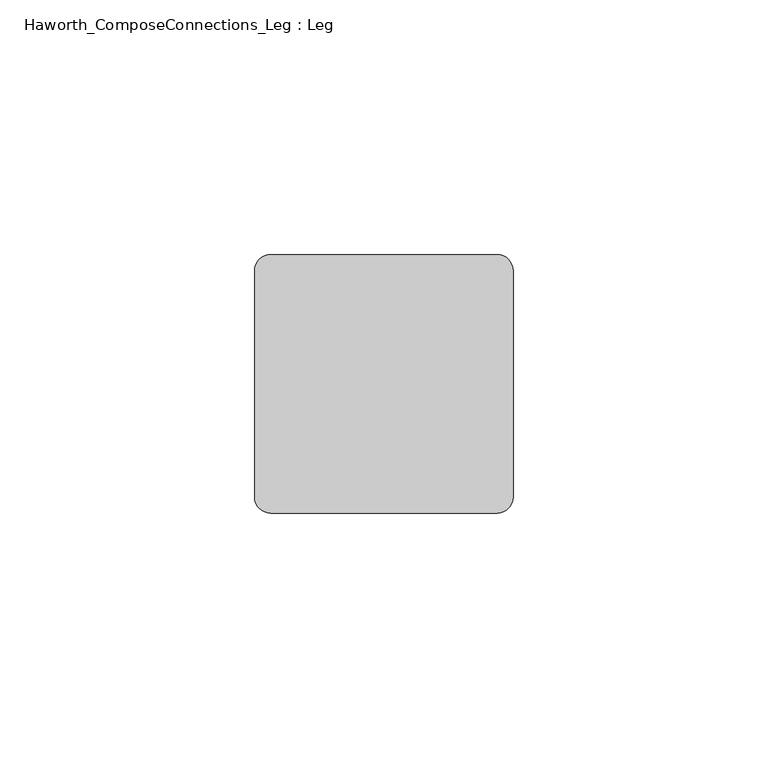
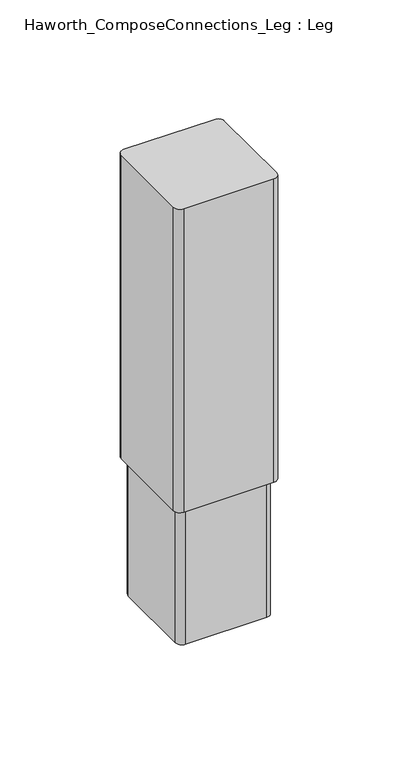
"""IFC4 building model written with IfcOpenShell, lengths in millimetres: furniture geometry, Haworth_ComposeConnections_Leg : Leg."""

import ifcopenshell
import ifcopenshell.guid

model = None  # the IFC model being written
_history = None  # IfcOwnerHistory: only IFC2X3 demands one
_inside = {}  # id of a spatial element -> (the spatial element, [elements in it])
_under = {}  # id of a project, library or spatial element -> (it, [spatial elements below it])
_declared = {}  # id of a project -> (the project, [libraries it declares])
_typed = {}  # id of a type object -> (the type object, [elements of that type])
_made_of = {}  # id of a material, layer set ... -> (it, [elements and type objects made of it])


def new_model(schema):
    """Start an empty IFC model of exactly this schema.

    Asked for "IFC4X3", IfcOpenShell would pick the latest addendum, in which some entities
    have other attributes; the version numbers below select the first issue.
    IFC2X3 requires an IfcOwnerHistory on every rooted entity: one is made here for all.
    """
    global model, _history
    if schema == "IFC4X3":
        model = ifcopenshell.file(schema_version=(4, 3, 0, 0))
    else:
        model = ifcopenshell.file(schema=schema)
    _inside.clear()
    _under.clear()
    _declared.clear()
    _typed.clear()
    _made_of.clear()
    _history = None
    if model.schema == "IFC2X3":
        org = make("IfcOrganization", Name="unknown")
        user = make(
            "IfcPersonAndOrganization",
            ThePerson=make("IfcPerson", FamilyName="unknown"),
            TheOrganization=org,
        )
        app = make(
            "IfcApplication",
            ApplicationDeveloper=org,
            Version="unknown",
            ApplicationFullName="unknown",
            ApplicationIdentifier="unknown",
        )
        _history = make(
            "IfcOwnerHistory",
            OwningUser=user,
            OwningApplication=app,
            ChangeAction="ADDED",
            CreationDate=0,
        )
    return model


def make(cls, **values):
    """One entity of the class cls with the attributes given. An attribute that is None is left unset."""
    return model.create_entity(
        cls, **{name: value for name, value in values.items() if value is not None}
    )


def rooted(cls, **values):
    """An entity with a GlobalId (a new one), such as an element, a storey or a relation."""
    return make(cls, GlobalId=ifcopenshell.guid.new(), OwnerHistory=_history, **values)


def si_unit(unit_type, name, prefix=None):
    """IfcSIUnit, for example si_unit("LENGTHUNIT", "METRE", prefix="MILLI")."""
    return make("IfcSIUnit", UnitType=unit_type, Prefix=prefix, Name=name)


def assignment(units):
    """IfcUnitAssignment: the units of a project."""
    return None if units is None else make("IfcUnitAssignment", Units=units)


def point(xyz):
    """IfcCartesianPoint."""
    return None if xyz is None else make("IfcCartesianPoint", Coordinates=xyz)


def direction(xyz):
    """IfcDirection."""
    return None if xyz is None else make("IfcDirection", DirectionRatios=xyz)


def frame(location, z_axis=None, x_axis=None):
    """IfcAxis2Placement3D, a coordinate frame: its origin and axes. An axis left out is left unset."""
    return make(
        "IfcAxis2Placement3D",
        Location=point(location),
        Axis=direction(z_axis),
        RefDirection=direction(x_axis),
    )


def frame_2d(location, x_axis=None):
    """IfcAxis2Placement2D, a coordinate frame in the plane: its origin and x axis."""
    return make(
        "IfcAxis2Placement2D", Location=point(location), RefDirection=direction(x_axis)
    )


def origin():
    """The frame at (0, 0, 0) with its axes left unset."""
    return frame((0.0, 0.0, 0.0))


def place(relative_to, where):
    """IfcLocalPlacement: puts the frame where relative to a parent placement (None: the world)."""
    return make(
        "IfcLocalPlacement", PlacementRelTo=relative_to, RelativePlacement=where
    )


def context(
    kind, dimensions, precision=None, world=None, true_north=None, identifier=None
):
    """IfcGeometricRepresentationContext, for example the 3D "Model" context."""
    return make(
        "IfcGeometricRepresentationContext",
        ContextIdentifier=identifier,
        ContextType=kind,
        CoordinateSpaceDimension=dimensions,
        Precision=precision,
        WorldCoordinateSystem=world,
        TrueNorth=true_north,
    )


def project(units=None, contexts=None):
    """IfcProject with its units and contexts."""
    return rooted(
        "IfcProject",
        Name="project",
        RepresentationContexts=contexts,
        UnitsInContext=assignment(units),
    )


def spatial(cls, under=None, at=None, **own):
    """A site, building, storey or space (cls), placed at a placement, below another one or the project."""
    s = rooted(cls, ObjectPlacement=at, **own)
    if under is not None:
        _under.setdefault(under.id(), (under, []))[1].append(s)
    return s


def polyline(points):
    """IfcPolyline through the points."""
    return make("IfcPolyline", Points=[point(p) for p in points])


def circle_curve(where, radius):
    """IfcCircle in the frame where."""
    return make("IfcCircle", Position=where, Radius=radius)


def trimmed(basis, trim1, trim2, sense, master):
    """IfcTrimmedCurve: the piece of a basis curve between two trims."""
    return make(
        "IfcTrimmedCurve",
        BasisCurve=basis,
        Trim1=trim1,
        Trim2=trim2,
        SenseAgreement=sense,
        MasterRepresentation=master,
    )


def segment(curve, same_sense, transition):
    """IfcCompositeCurveSegment."""
    return make(
        "IfcCompositeCurveSegment",
        Transition=transition,
        SameSense=same_sense,
        ParentCurve=curve,
    )


def composite_curve(segments, self_intersect=None):
    """IfcCompositeCurve: segments joined end to end."""
    return make("IfcCompositeCurve", Segments=segments, SelfIntersect=self_intersect)


def outline(outer, holes=None, kind="AREA"):
    """IfcArbitraryClosedProfileDef: a profile drawn as a closed curve; with holes, ...WithVoids."""
    if holes is None:
        return make("IfcArbitraryClosedProfileDef", ProfileType=kind, OuterCurve=outer)
    return make(
        "IfcArbitraryProfileDefWithVoids",
        ProfileType=kind,
        OuterCurve=outer,
        InnerCurves=holes,
    )


def extrude(swept, where, along, depth):
    """IfcExtrudedAreaSolid: the profile swept, set in the frame where, extruded along a direction by depth."""
    return make(
        "IfcExtrudedAreaSolid",
        SweptArea=swept,
        Position=where,
        ExtrudedDirection=direction(along),
        Depth=depth,
    )


def shape(context_of_items, identifier, shape_type, items):
    """IfcShapeRepresentation: the items that make up one representation, for example the "Body"."""
    return make(
        "IfcShapeRepresentation",
        ContextOfItems=context_of_items,
        RepresentationIdentifier=identifier,
        RepresentationType=shape_type,
        Items=items,
    )


def source(mapping_origin, context_of_items, identifier, shape_type, items):
    """IfcRepresentationMap: a shape defined once, which mapped items show again and again."""
    return make(
        "IfcRepresentationMap",
        MappingOrigin=mapping_origin,
        MappedRepresentation=shape(context_of_items, identifier, shape_type, items),
    )


def transform(
    local_origin,
    x_axis=None,
    y_axis=None,
    z_axis=None,
    scale=None,
    scale2=None,
    scale3=None,
    uniform=True,
):
    """IfcCartesianTransformationOperator3D, or its non-uniform kind. x_axis, y_axis, z_axis: its Axis1, 2, 3."""
    if uniform:
        return make(
            "IfcCartesianTransformationOperator3D",
            Axis1=direction(x_axis),
            Axis2=direction(y_axis),
            LocalOrigin=point(local_origin),
            Scale=scale,
            Axis3=direction(z_axis),
        )
    return make(
        "IfcCartesianTransformationOperator3DnonUniform",
        Axis1=direction(x_axis),
        Axis2=direction(y_axis),
        LocalOrigin=point(local_origin),
        Scale=scale,
        Axis3=direction(z_axis),
        Scale2=scale2,
        Scale3=scale3,
    )


def mapped(mapping_source, mapping_target):
    """IfcMappedItem: shows the shape of a source again, moved by a transform."""
    return make(
        "IfcMappedItem", MappingSource=mapping_source, MappingTarget=mapping_target
    )


def made_of(thing, what):
    """Note that an element or type object is made of a material, layer set ...; save() writes the relation."""
    if what is not None:
        _made_of.setdefault(what.id(), (what, []))[1].append(thing)
    return thing


def element(
    cls,
    number,
    at=None,
    inside=None,
    cuts=None,
    type_object=None,
    material=None,
    context=None,
    identifier="Body",
    shape_type=None,
    held_by="IfcProductDefinitionShape",
    body=None,
    shapes=None,
    **own,
):
    """One element of the class cls, such as IfcWall. Its Tag is "e" and its number.

    at: its placement. inside: the storey or other place that contains it. cuts: it is an
    opening in that element (IfcRelVoidsElement). A single representation is given by context,
    identifier, shape_type and body (its items); several are given by shapes. held_by: the class
    of the entity that holds the representations. save() writes the other relations.
    """
    e = rooted(cls, Tag="e%d" % number, ObjectPlacement=at, **own)
    if body is not None:
        shapes = [shape(context, identifier, shape_type, body)]
    if shapes is not None:
        e.Representation = make(held_by, Representations=shapes)
    if inside is not None:
        _inside.setdefault(inside.id(), (inside, []))[1].append(e)
    if cuts is not None:
        rooted(
            "IfcRelVoidsElement", RelatingBuildingElement=cuts, RelatedOpeningElement=e
        )
    if type_object is not None:
        _typed.setdefault(type_object.id(), (type_object, []))[1].append(e)
    return made_of(e, material)


def aggregate(whole, parts):
    """IfcRelAggregates: a whole, such as a stair, and the parts it consists of."""
    return rooted("IfcRelAggregates", RelatingObject=whole, RelatedObjects=parts)


def save(model, path):
    """Write the relations noted so far, then the file.

    IfcRelAggregates (storeys below a building ...), IfcRelContainedInSpatialStructure (elements
    in a storey), IfcRelDefinesByType, IfcRelAssociatesMaterial and IfcRelDeclares: one each for
    every whole, place, type object, material and project.
    """
    for whole, parts in _under.values():
        aggregate(whole, parts)
    for where, things in _inside.values():
        rooted(
            "IfcRelContainedInSpatialStructure",
            RelatedElements=things,
            RelatingStructure=where,
        )
    for kind, things in _typed.values():
        rooted("IfcRelDefinesByType", RelatedObjects=things, RelatingType=kind)
    for what, things in _made_of.values():
        rooted("IfcRelAssociatesMaterial", RelatedObjects=things, RelatingMaterial=what)
    for by, libraries in _declared.values():
        rooted("IfcRelDeclares", RelatingContext=by, RelatedDefinitions=libraries)
    model.write(path)


def haworth_composeconnections_leg_leg_f7771f14(model_context):
    return source(origin(), model_context, "Body", "SweptSolid", [
        extrude(outline(composite_curve([segment(trimmed(circle_curve(frame_2d((161.9249992, 50.5284841)), 3.175), [point((161.9249992, 47.3534841))], [point((158.7499992, 50.5284841))], False, "CARTESIAN"), True, "CONTINUOUS"), segment(polyline([(158.7499992, 50.5284841), (158.7499992, 94.9784822)]), True, "CONTINUOUS"), segment(trimmed(circle_curve(frame_2d((161.9249992, 94.9784822)), 3.175), [point((158.7499992, 94.9784822))], [point((161.9249992, 98.1534822))], False, "CARTESIAN"), True, "CONTINUOUS"), segment(polyline([(161.9249992, 98.1534822), (206.3749962, 98.1534822)]), True, "CONTINUOUS"), segment(trimmed(circle_curve(frame_2d((206.3749962, 94.9784822)), 3.175), [point((206.3749962, 98.1534822))], [point((209.5499962, 94.9784822))], False, "CARTESIAN"), True, "CONTINUOUS"), segment(polyline([(209.5499962, 94.9784822), (209.5499962, 50.5284841)]), True, "CONTINUOUS"), segment(trimmed(circle_curve(frame_2d((206.3749962, 50.5284841)), 3.175), [point((209.5499962, 50.5284841))], [point((206.3749962, 47.3534841))], False, "CARTESIAN"), True, "CONTINUOUS"), segment(polyline([(206.3749962, 47.3534841), (161.9249992, 47.3534841)]), True, "CONTINUOUS")], self_intersect=False)), frame((0.0, 0.0, 77.215999), z_axis=(0.0, 0.0, 1.0), x_axis=(1.0, 0.0, 0.0)), (0.0, 0.0, 1.0), 157.734001),
        extrude(outline(composite_curve([segment(trimmed(circle_curve(frame_2d((164.2109971, 52.8144819)), 3.175), [point((164.2109971, 49.6394819))], [point((161.0359971, 52.8144819))], False, "CARTESIAN"), True, "CONTINUOUS"), segment(polyline([(161.0359971, 52.8144819), (161.0359971, 92.6924821)]), True, "CONTINUOUS"), segment(trimmed(circle_curve(frame_2d((164.2109971, 92.6924821)), 3.175), [point((161.0359971, 92.6924821))], [point((164.2109971, 95.8674821))], False, "CARTESIAN"), True, "CONTINUOUS"), segment(polyline([(164.2109971, 95.8674821), (204.0889984, 95.8674821)]), True, "CONTINUOUS"), segment(trimmed(circle_curve(frame_2d((204.0889984, 92.6924821)), 3.175), [point((204.0889984, 95.8674821))], [point((207.2639984, 92.6924821))], False, "CARTESIAN"), True, "CONTINUOUS"), segment(polyline([(207.2639984, 92.6924821), (207.2639984, 52.8144819)]), True, "CONTINUOUS"), segment(trimmed(circle_curve(frame_2d((204.0889984, 52.8144819)), 3.175), [point((207.2639984, 52.8144819))], [point((204.0889984, 49.6394819))], False, "CARTESIAN"), True, "CONTINUOUS"), segment(polyline([(204.0889984, 49.6394819), (164.2109971, 49.6394819)]), True, "CONTINUOUS")], self_intersect=False)), frame((0.0, 0.0, 6.35), z_axis=(0.0, 0.0, 1.0), x_axis=(1.0, 0.0, 0.0)), (0.0, 0.0, 1.0), 153.415999),
    ])


if __name__ == "__main__":
    model = new_model("IFC4")
    model_context = context("Model", 3, world=origin())
    ifc_project = project(units=[si_unit("LENGTHUNIT", "METRE", prefix="MILLI")], contexts=[model_context])
    site = spatial("IfcSite", under=ifc_project)
    building = spatial("IfcBuilding", under=site)
    placement = place(None, origin())
    haworth_composeconnections_leg_leg_shape = haworth_composeconnections_leg_leg_f7771f14(model_context)
    element("IfcFurniture", 1, ObjectType="Haworth_ComposeConnections_Leg : Leg", at=placement, inside=building, context=model_context, shape_type="MappedRepresentation", body=[
        mapped(haworth_composeconnections_leg_leg_shape, transform((0.0, 0.0, 0.0), x_axis=(1.0, 0.0, 0.0), y_axis=(0.0, 1.0, 0.0), z_axis=(0.0, 0.0, 1.0))),
    ])
    save(model, "model.ifc")
